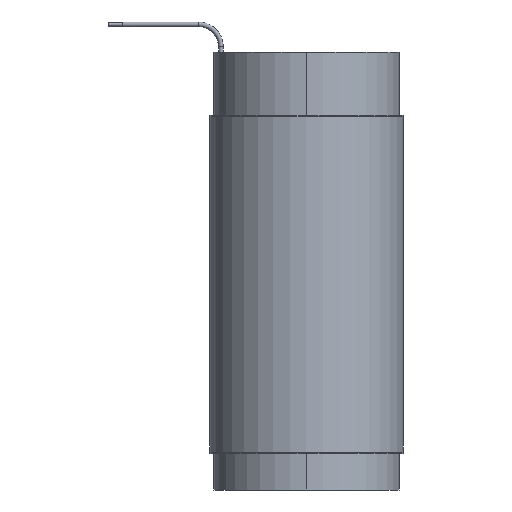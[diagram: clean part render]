
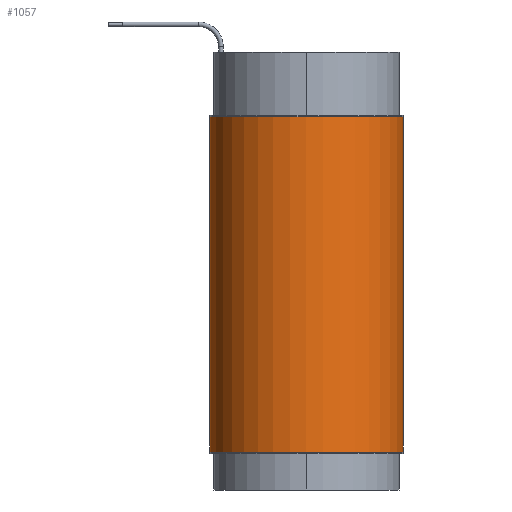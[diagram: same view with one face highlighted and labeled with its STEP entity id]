
A CAD part, left-side view. The second image highlights one B-rep face of the part: STEP entity #1057.
In plain terms, the highlighted cylindrical face has radius 43.815 mm (diameter 87.63 mm), a partial arc.
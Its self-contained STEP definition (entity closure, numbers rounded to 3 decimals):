
#12 = EDGE_CURVE ( 'NONE', #164, #2109, #2928, .T. ) ;
#164 = VERTEX_POINT ( 'NONE', #224 ) ;
#165 = ORIENTED_EDGE ( 'NONE', *, *, #12, .T. ) ;
#166 = EDGE_CURVE ( 'NONE', #1672, #2077, #218, .T. ) ;
#218 = LINE ( 'NONE', #2135, #1971 ) ;
#224 = CARTESIAN_POINT ( 'NONE',  ( 0., 43.815, 76. ) ) ;
#300 = ORIENTED_EDGE ( 'NONE', *, *, #1612, .T. ) ;
#447 = CARTESIAN_POINT ( 'NONE',  ( 0., 0., 76.711 ) ) ;
#637 = CYLINDRICAL_SURFACE ( 'NONE', #1017, 43.815 ) ;
#647 = DIRECTION ( 'NONE',  ( 0., 0., -1. ) ) ;
#675 = CARTESIAN_POINT ( 'NONE',  ( 0., 0., -76. ) ) ;
#788 = AXIS2_PLACEMENT_3D ( 'NONE', #675, #1392, #1884 ) ;
#862 = DIRECTION ( 'NONE',  ( 0., 0., -1. ) ) ;
#913 = CARTESIAN_POINT ( 'NONE',  ( 0., 0., 76. ) ) ;
#946 = VECTOR ( 'NONE', #862, 1000. ) ;
#1017 = AXIS2_PLACEMENT_3D ( 'NONE', #447, #647, #2111 ) ;
#1057 = ADVANCED_FACE ( 'NONE', ( #2905 ), #637, .T. ) ;
#1115 = CARTESIAN_POINT ( 'NONE',  ( 0., 43.815, -76. ) ) ;
#1146 = DIRECTION ( 'NONE',  ( 0., 0., -1. ) ) ;
#1392 = DIRECTION ( 'NONE',  ( 0., 0., 1. ) ) ;
#1483 = EDGE_LOOP ( 'NONE', ( #2167, #2158, #165, #300 ) ) ;
#1612 = EDGE_CURVE ( 'NONE', #2109, #2077, #2406, .T. ) ;
#1672 = VERTEX_POINT ( 'NONE', #2577 ) ;
#1791 = AXIS2_PLACEMENT_3D ( 'NONE', #913, #1883, #2818 ) ;
#1883 = DIRECTION ( 'NONE',  ( 0., 0., 1. ) ) ;
#1884 = DIRECTION ( 'NONE',  ( 1., 0., 0. ) ) ;
#1888 = CIRCLE ( 'NONE', #1791, 43.815 ) ;
#1971 = VECTOR ( 'NONE', #1146, 1000. ) ;
#2077 = VERTEX_POINT ( 'NONE', #2883 ) ;
#2109 = VERTEX_POINT ( 'NONE', #1115 ) ;
#2111 = DIRECTION ( 'NONE',  ( 0., 1., 0. ) ) ;
#2135 = CARTESIAN_POINT ( 'NONE',  ( 0., -43.815, 76.711 ) ) ;
#2158 = ORIENTED_EDGE ( 'NONE', *, *, #2209, .F. ) ;
#2167 = ORIENTED_EDGE ( 'NONE', *, *, #166, .F. ) ;
#2209 = EDGE_CURVE ( 'NONE', #164, #1672, #1888, .T. ) ;
#2406 = CIRCLE ( 'NONE', #788, 43.815 ) ;
#2577 = CARTESIAN_POINT ( 'NONE',  ( 0., -43.815, 76. ) ) ;
#2818 = DIRECTION ( 'NONE',  ( 1., 0., 0. ) ) ;
#2883 = CARTESIAN_POINT ( 'NONE',  ( 0., -43.815, -76. ) ) ;
#2905 = FACE_OUTER_BOUND ( 'NONE', #1483, .T. ) ;
#2928 = LINE ( 'NONE', #2992, #946 ) ;
#2992 = CARTESIAN_POINT ( 'NONE',  ( 0., 43.815, 76.711 ) ) ;
